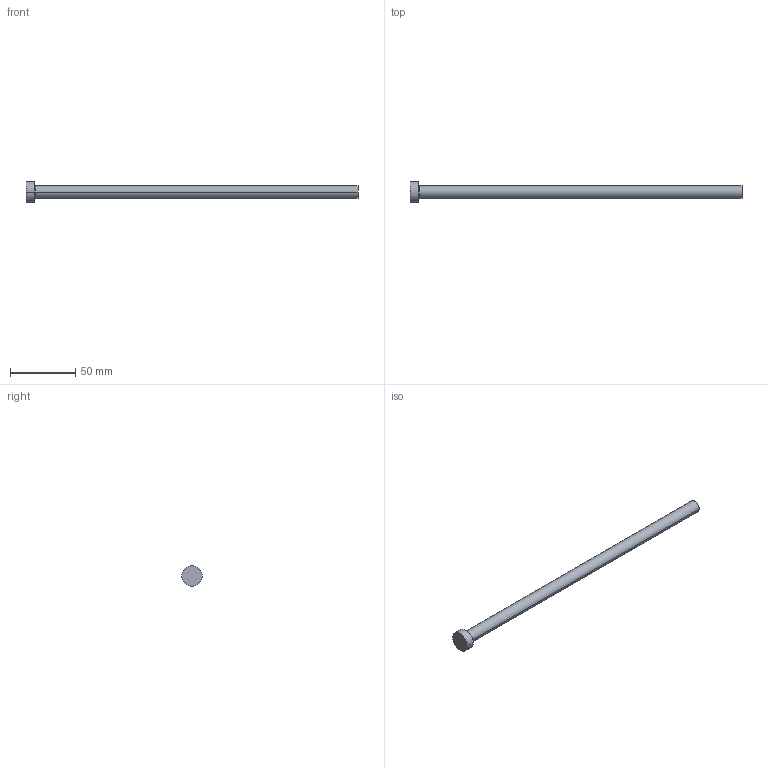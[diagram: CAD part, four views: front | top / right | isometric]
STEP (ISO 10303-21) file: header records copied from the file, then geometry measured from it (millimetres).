
FILE_DESCRIPTION (( 'STEP AP214' ), '1' );
FILE_NAME ('P25-10.STEP', '2020-03-12T09:55:55', ( '' ), ( '' ), 'SwSTEP 2.0', 'SolidWorks 2018', '' );
FILE_SCHEMA (( 'AUTOMOTIVE_DESIGN' ));
Length unit declared in the file: inch
Products named in the file (1): P25-10
Bounding box: 254 x 15.88 x 15.88 mm (x, y, z)
Volume: 18878.5 mm3; surface area: 8101.7 mm2
Topology: 1 solids, 1 shells, 13 faces, 24 edges, 14 vertices
Faces by surface type: cone 4, cylinder 4, plane 3, torus 2
Entity records: 366 total; most frequent: DIRECTION 68, CARTESIAN_POINT 52, ORIENTED_EDGE 48, AXIS2_PLACEMENT_3D 30, EDGE_CURVE 24, CIRCLE 16, EDGE_LOOP 14, VERTEX_POINT 14
